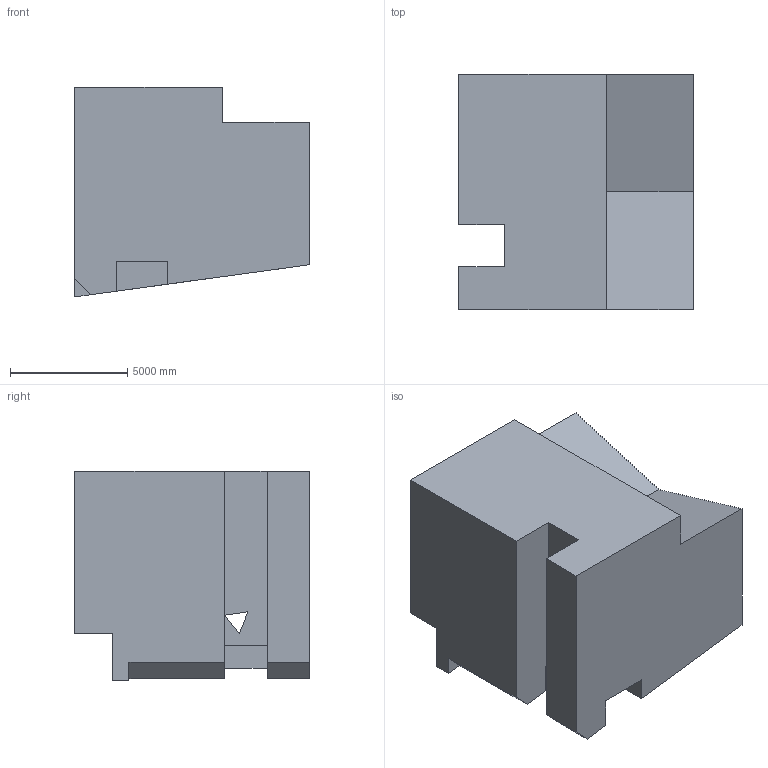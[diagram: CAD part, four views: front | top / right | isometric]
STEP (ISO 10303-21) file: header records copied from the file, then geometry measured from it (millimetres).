
FILE_DESCRIPTION (( 'STEP AP203' ), '1' );
FILE_NAME ('922.STEP', '2022-07-29T14:20:27', ( 'user' ), ( '' ), 'SwSTEP 2.0', 'SolidWorks 2021', '' );
FILE_SCHEMA (( 'CONFIG_CONTROL_DESIGN' ));
Length unit declared in the file: centimetre
Products named in the file (1): 922
Bounding box: 10000 x 10000 x 8939.84 mm (x, y, z)
Volume: 631936463332.9 mm3; surface area: 633238240.9 mm2
Topology: 1 solids, 1 shells, 47 faces, 138 edges, 92 vertices
Faces by surface type: plane 45, cylinder 2
Entity records: 1620 total; most frequent: CARTESIAN_POINT 287, ORIENTED_EDGE 276, DIRECTION 234, EDGE_CURVE 138, LINE 132, VECTOR 132, VERTEX_POINT 92, AXIS2_PLACEMENT_3D 51
